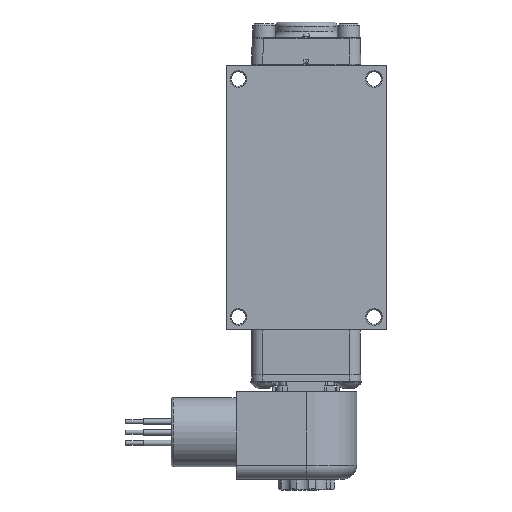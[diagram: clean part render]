
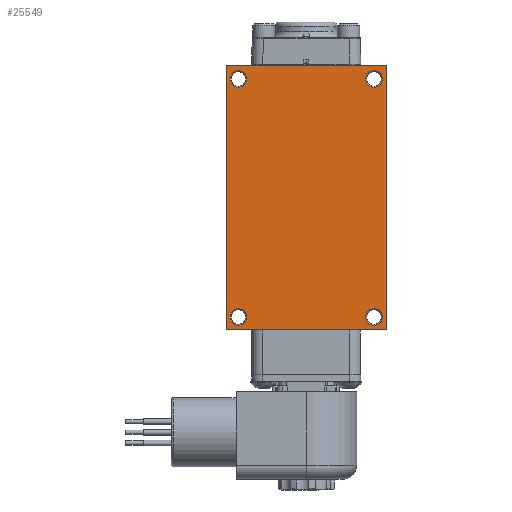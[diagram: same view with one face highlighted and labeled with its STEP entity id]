
A CAD part, front view. The second image highlights one B-rep face of the part: STEP entity #25549.
In plain terms, the highlighted planar face has unit normal (0, -1, 0).
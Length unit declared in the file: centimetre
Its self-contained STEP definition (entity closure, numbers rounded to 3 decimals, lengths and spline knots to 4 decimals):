
#430=LINE('',#37882,#2142);
#440=LINE('',#37923,#2152);
#665=LINE('',#39101,#2377);
#908=LINE('',#40525,#2620);
#2142=VECTOR('',#30436,5.715);
#2152=VECTOR('',#30470,5.715);
#2377=VECTOR('',#30917,9.4209);
#2620=VECTOR('',#31310,9.4209);
#4675=FACE_BOUND('',#7432,.T.);
#4676=FACE_BOUND('',#7433,.T.);
#4677=FACE_BOUND('',#7434,.T.);
#4678=FACE_BOUND('',#7435,.T.);
#5732=FACE_OUTER_BOUND('',#7431,.T.);
#7431=EDGE_LOOP('',(#18137,#18138,#18139,#18140));
#7432=EDGE_LOOP('',(#18141));
#7433=EDGE_LOOP('',(#18142));
#7434=EDGE_LOOP('',(#18143));
#7435=EDGE_LOOP('',(#18144));
#9137=CIRCLE('',#27379,0.2959);
#9138=CIRCLE('',#27381,0.2959);
#9139=CIRCLE('',#27382,0.2959);
#9140=CIRCLE('',#27383,0.2959);
#10396=VERTEX_POINT('',#37879);
#10397=VERTEX_POINT('',#37881);
#10415=VERTEX_POINT('',#37920);
#10416=VERTEX_POINT('',#37922);
#10949=VERTEX_POINT('',#41244);
#10950=VERTEX_POINT('',#41247);
#10951=VERTEX_POINT('',#41249);
#10952=VERTEX_POINT('',#41251);
#12850=EDGE_CURVE('',#10396,#10397,#430,.T.);
#12869=EDGE_CURVE('',#10415,#10416,#440,.T.);
#13190=EDGE_CURVE('',#10416,#10396,#665,.T.);
#13527=EDGE_CURVE('',#10397,#10415,#908,.T.);
#13638=EDGE_CURVE('',#10949,#10949,#9137,.T.);
#13639=EDGE_CURVE('',#10950,#10950,#9138,.T.);
#13640=EDGE_CURVE('',#10951,#10951,#9139,.T.);
#13641=EDGE_CURVE('',#10952,#10952,#9140,.T.);
#18137=ORIENTED_EDGE('',*,*,#13527,.F.);
#18138=ORIENTED_EDGE('',*,*,#12850,.F.);
#18139=ORIENTED_EDGE('',*,*,#13190,.F.);
#18140=ORIENTED_EDGE('',*,*,#12869,.F.);
#18141=ORIENTED_EDGE('',*,*,#13639,.F.);
#18142=ORIENTED_EDGE('',*,*,#13640,.F.);
#18143=ORIENTED_EDGE('',*,*,#13641,.F.);
#18144=ORIENTED_EDGE('',*,*,#13638,.F.);
#23107=PLANE('',#27380);
#25549=ADVANCED_FACE('',(#5732,#4675,#4676,#4677,#4678),#23107,.F.);
#27379=AXIS2_PLACEMENT_3D('',#41245,#31535,#31536);
#27380=AXIS2_PLACEMENT_3D('',#41246,#31537,#31538);
#27381=AXIS2_PLACEMENT_3D('',#41248,#31539,#31540);
#27382=AXIS2_PLACEMENT_3D('',#41250,#31541,#31542);
#27383=AXIS2_PLACEMENT_3D('',#41252,#31543,#31544);
#30436=DIRECTION('',(1.,0.,0.));
#30470=DIRECTION('',(-1.,0.,0.));
#30917=DIRECTION('',(0.,0.,1.));
#31310=DIRECTION('',(0.,0.,-1.));
#31535=DIRECTION('center_axis',(0.,-1.,0.));
#31536=DIRECTION('ref_axis',(1.,0.,0.));
#31537=DIRECTION('center_axis',(0.,1.,0.));
#31538=DIRECTION('ref_axis',(0.,0.,1.));
#31539=DIRECTION('center_axis',(0.,-1.,0.));
#31540=DIRECTION('ref_axis',(1.,0.,0.));
#31541=DIRECTION('center_axis',(0.,-1.,0.));
#31542=DIRECTION('ref_axis',(1.,0.,0.));
#31543=DIRECTION('center_axis',(0.,-1.,0.));
#31544=DIRECTION('ref_axis',(1.,0.,0.));
#37879=CARTESIAN_POINT('',(-2.8575,-1.6358,4.7104));
#37881=CARTESIAN_POINT('',(2.8575,-1.6358,4.7104));
#37882=CARTESIAN_POINT('',(2.8575,-1.6358,4.7104));
#37920=CARTESIAN_POINT('',(2.8575,-1.6358,-4.7104));
#37922=CARTESIAN_POINT('',(-2.8575,-1.6358,-4.7104));
#37923=CARTESIAN_POINT('',(-2.8575,-1.6358,-4.7104));
#39101=CARTESIAN_POINT('',(-2.8575,-1.6358,4.7104));
#40525=CARTESIAN_POINT('',(2.8575,-1.6358,-4.7104));
#41244=CARTESIAN_POINT('',(2.1247,-1.6358,4.2469));
#41245=CARTESIAN_POINT('Origin',(2.4206,-1.6358,4.2469));
#41246=CARTESIAN_POINT('Origin',(0.,-1.6358,0.));
#41247=CARTESIAN_POINT('',(-2.7165,-1.6358,4.2469));
#41248=CARTESIAN_POINT('Origin',(-2.4206,-1.6358,4.2469));
#41249=CARTESIAN_POINT('',(2.1247,-1.6358,-4.2469));
#41250=CARTESIAN_POINT('Origin',(2.4206,-1.6358,-4.2469));
#41251=CARTESIAN_POINT('',(-2.7165,-1.6358,-4.2469));
#41252=CARTESIAN_POINT('Origin',(-2.4206,-1.6358,-4.2469));
